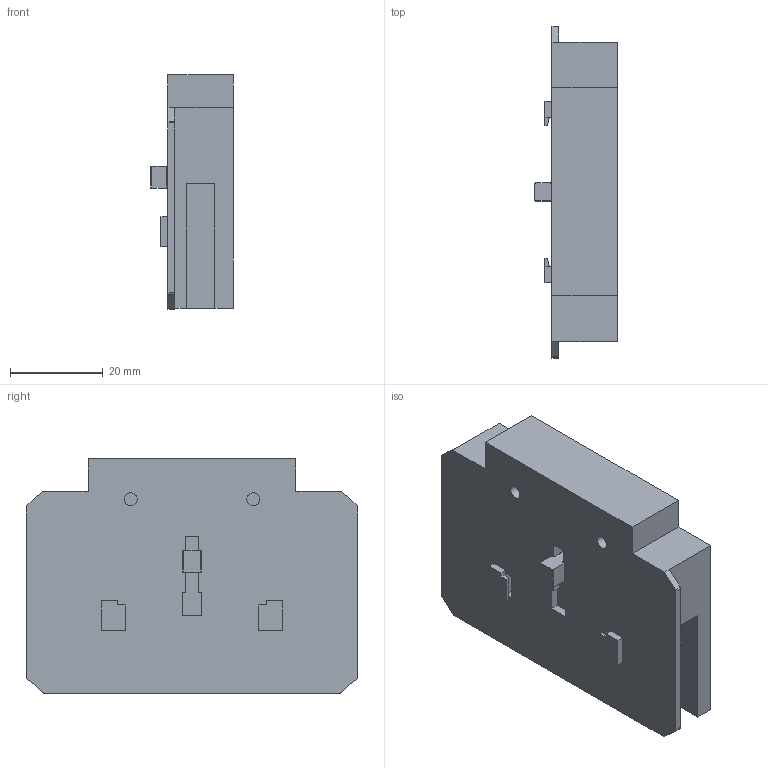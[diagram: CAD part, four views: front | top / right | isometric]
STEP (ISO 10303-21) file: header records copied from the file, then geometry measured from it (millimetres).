
FILE_DESCRIPTION (( 'STEP AP203' ), '1' );
FILE_NAME ('Êîíòàêò âñïîìîãàòåëüíûé OptiSwitch DI-16-125 (äëÿ OptiSwitch DI-80-125Ñ-3_ñïðàâà).STEP', '2023-03-26T20:59:22', ( 'Ïîëüçîâàòåëü' ), ( '' ), 'SwSTEP 2.0', 'SolidWorks 2018', '' );
FILE_SCHEMA (( 'CONFIG_CONTROL_DESIGN' ));
Length unit declared in the file: millimetre
Products named in the file (2): Êîíòàêò âñïîìîãàòåëüíûé OptiSwitch DI-16-125; Êîíòàêò âñïîìîãàòåëüíûé OptiSwitch DI-16-125 (äëÿ OptiSwitch DI-80-125Ñ-3_ñïðàâà)
Assembly tree (1 placements, depth 2):
  Êîíòàêò âñïîìîãàòåëüíûé OptiSwitch DI-16-125 (äëÿ OptiSwitch DI-80-125Ñ-3_ñïðàâà)
    Êîíòàêò âñïîìîãàòåëüíûé OptiSwitch DI-16-125
Bounding box: 17.8 x 71.5 x 50.5 mm (x, y, z)
Volume: 38708.5 mm3; surface area: 12435.6 mm2
Topology: 1 solids, 1 shells, 87 faces, 232 edges, 152 vertices
Faces by surface type: plane 73, cylinder 14
Full cylindrical faces by diameter (mm): 2.8 x2
Entity records: 2856 total; most frequent: CARTESIAN_POINT 473, ORIENTED_EDGE 460, DIRECTION 440, EDGE_CURVE 230, VECTOR 202, LINE 202, VERTEX_POINT 152, AXIS2_PLACEMENT_3D 119
